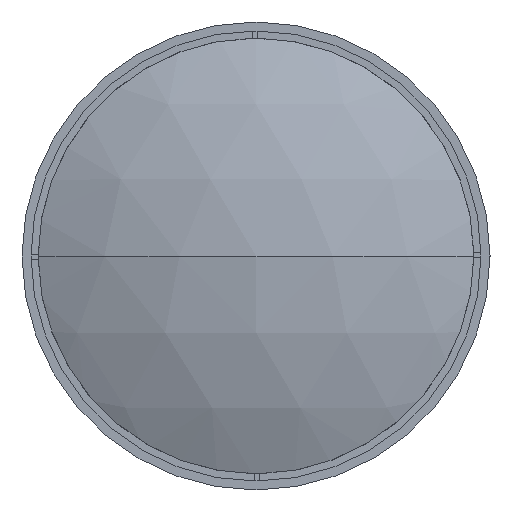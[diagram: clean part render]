
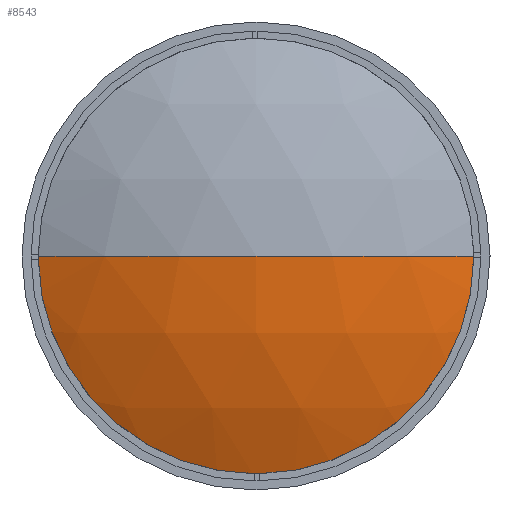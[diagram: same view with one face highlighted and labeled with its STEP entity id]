
A CAD part, left-side view. The second image highlights one B-rep face of the part: STEP entity #8543.
In plain terms, the highlighted spherical face has radius 144.52 mm.
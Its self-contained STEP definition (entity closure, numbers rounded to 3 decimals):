
#31 = DIRECTION ( 'NONE',  ( 0., 1., 0. ) ) ;
#1645 = DIRECTION ( 'NONE',  ( 0., 0., -1. ) ) ;
#1761 = CIRCLE ( 'NONE', #9562, 62. ) ;
#2653 = CARTESIAN_POINT ( 'NONE',  ( 13.975, 0., 0. ) ) ;
#3394 = CARTESIAN_POINT ( 'NONE',  ( 144.52, 0., 0. ) ) ;
#3690 = VERTEX_POINT ( 'NONE', #13861 ) ;
#3981 = DIRECTION ( 'NONE',  ( 0., 0., 1. ) ) ;
#4000 = CARTESIAN_POINT ( 'NONE',  ( 144.52, 0., 0. ) ) ;
#4222 = CARTESIAN_POINT ( 'NONE',  ( 0., 0., 0. ) ) ;
#4738 = DIRECTION ( 'NONE',  ( 1., 0., 0. ) ) ;
#4822 = AXIS2_PLACEMENT_3D ( 'NONE', #3394, #12762, #4738 ) ;
#5348 = ORIENTED_EDGE ( 'NONE', *, *, #11990, .T. ) ;
#5926 = SPHERICAL_SURFACE ( 'NONE', #11608, 144.52 ) ;
#5940 = AXIS2_PLACEMENT_3D ( 'NONE', #9637, #1645, #10986 ) ;
#6324 = CIRCLE ( 'NONE', #4822, 144.52 ) ;
#8038 = DIRECTION ( 'NONE',  ( 0., 0., -1. ) ) ;
#8543 = ADVANCED_FACE ( 'NONE', ( #13067 ), #5926, .T. ) ;
#9562 = AXIS2_PLACEMENT_3D ( 'NONE', #2653, #11997, #3981 ) ;
#9637 = CARTESIAN_POINT ( 'NONE',  ( 144.52, 0., 0. ) ) ;
#10473 = ORIENTED_EDGE ( 'NONE', *, *, #13012, .F. ) ;
#10986 = DIRECTION ( 'NONE',  ( 0., 1., 0. ) ) ;
#11608 = AXIS2_PLACEMENT_3D ( 'NONE', #4000, #8038, #31 ) ;
#11884 = EDGE_CURVE ( 'NONE', #15705, #3690, #1761, .T. ) ;
#11990 = EDGE_CURVE ( 'NONE', #3690, #16684, #12013, .T. ) ;
#11997 = DIRECTION ( 'NONE',  ( -1., 0., 0. ) ) ;
#12013 = CIRCLE ( 'NONE', #5940, 144.52 ) ;
#12762 = DIRECTION ( 'NONE',  ( 0., 0., 1. ) ) ;
#13012 = EDGE_CURVE ( 'NONE', #15705, #16684, #6324, .T. ) ;
#13067 = FACE_OUTER_BOUND ( 'NONE', #15615, .T. ) ;
#13861 = CARTESIAN_POINT ( 'NONE',  ( 13.975, -62., 0. ) ) ;
#14091 = CARTESIAN_POINT ( 'NONE',  ( 13.975, 62., 0. ) ) ;
#15615 = EDGE_LOOP ( 'NONE', ( #17260, #5348, #10473 ) ) ;
#15705 = VERTEX_POINT ( 'NONE', #14091 ) ;
#16684 = VERTEX_POINT ( 'NONE', #4222 ) ;
#17260 = ORIENTED_EDGE ( 'NONE', *, *, #11884, .T. ) ;
